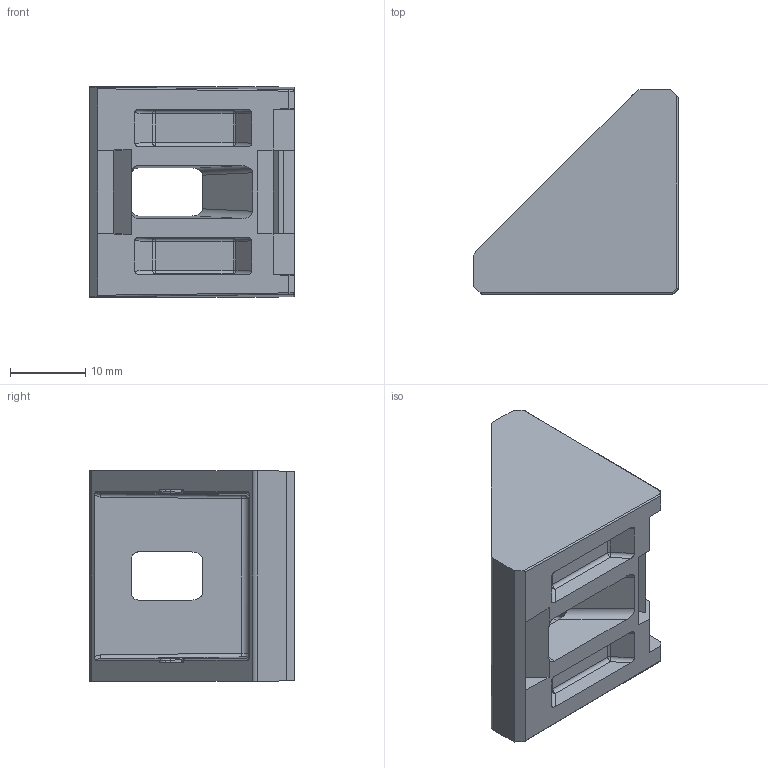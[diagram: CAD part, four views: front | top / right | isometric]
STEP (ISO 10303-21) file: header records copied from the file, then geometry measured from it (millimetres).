
FILE_DESCRIPTION(('STEP AP214'),'1');
FILE_NAME('C:/TPO v2/SharedFS/Outgoing/fath_093w303.stp','2016-06-14T11:55:29',('TraceParts'),('TraceParts S.A.'),'Spatial InterOp 3D',' ',' ');
FILE_SCHEMA(('automotive_design'));
Length unit declared in the file: millimetre
Products named in the file (1): V8-0,3
Bounding box: 27.2 x 27.2 x 28 mm (x, y, z)
Volume: 7297.1 mm3; surface area: 4723.2 mm2
Topology: 1 solids, 1 shells, 169 faces, 428 edges, 256 vertices
Faces by surface type: cylinder 71, plane 68, sphere 16, bspline 14
Entity records: 6549 total; most frequent: CARTESIAN_POINT 1416, ORIENTED_EDGE 840, DIRECTION 728, EDGE_CURVE 420, VERTEX_POINT 256, LINE 256, VECTOR 256, AXIS2_PLACEMENT_3D 236
